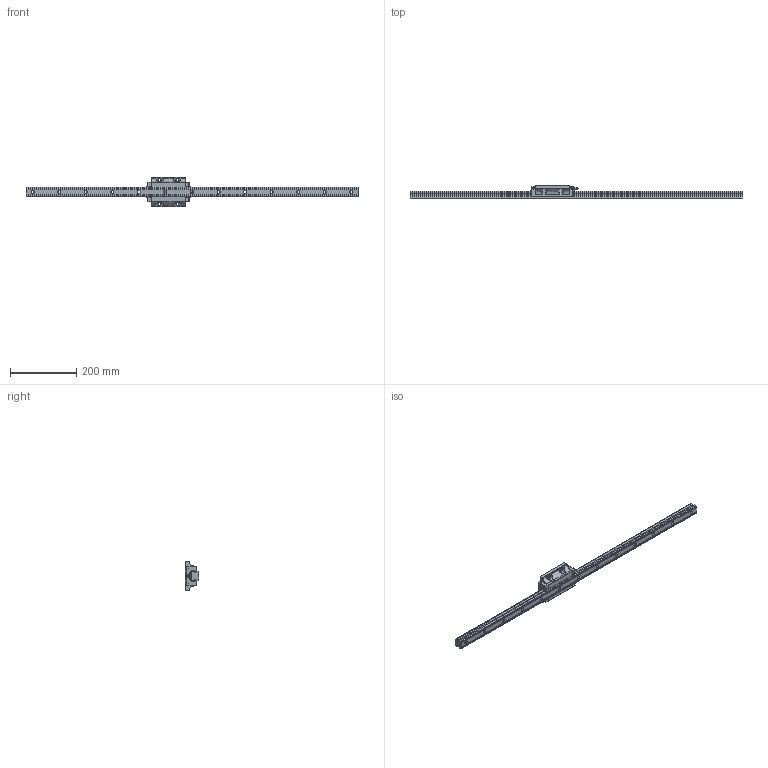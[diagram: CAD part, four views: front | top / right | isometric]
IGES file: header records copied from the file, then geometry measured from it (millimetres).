
Start section: SolidWorks IGES file using analytic representation for surfaces
Global section: file name: C:\Users\tsuch\OneDrive\デスクトップ\EG30関連修正(3D)\EGH30FL.IGS; native system: SolidWorks 2019; preprocessor: SolidWorks 2019; author: tsuch; date: 210705.155414; units: millimetre
Bounding box: 1000 x 42 x 90 mm (x, y, z)
Surface area: 165443.8 mm2 (no closed solid volume)
Topology: 0 solids, 0 shells, 599 faces, 7053 edges, 7053 vertices
Faces by surface type: bspline 377, revolution 222
